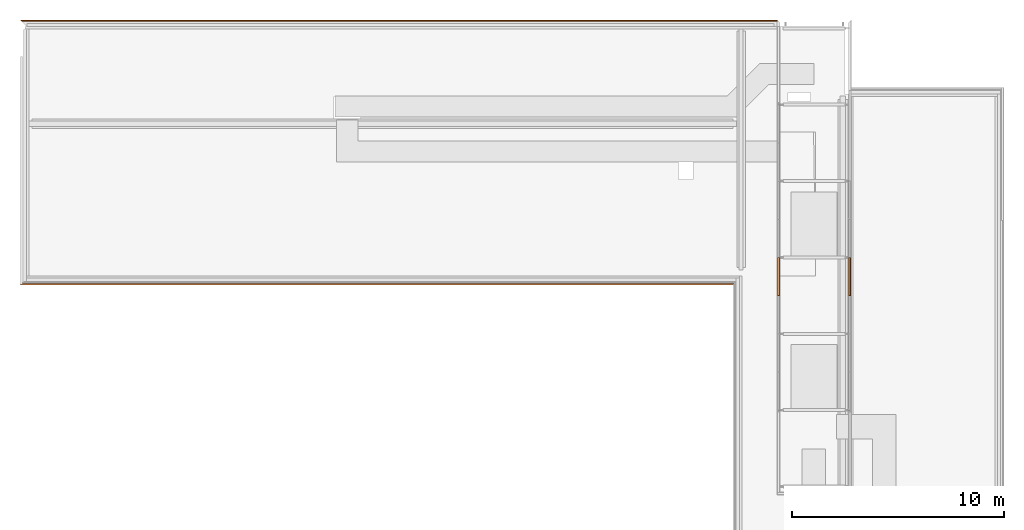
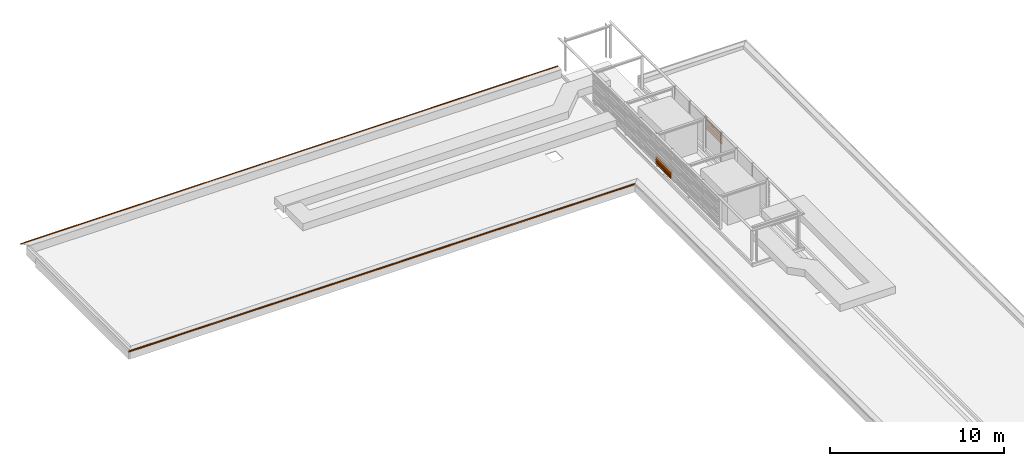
# One storey, part 29 of 32: 13 proxies.
"""IFC2X3 building model written with IfcOpenShell, lengths in millimetres."""

from ifc_helpers import new_model, entity, si_unit, converted_unit, derived_unit, direction, frame, origin, place, context, subcontext, project, spatial, faceted_brep, source, transform, mapped, material, type_object, type_shapes, element, save


model = new_model("IFC2X3")

# Units and contexts
model_context = context("Model", 3, precision=0.01, world=origin(), true_north=direction((6.123031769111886e-17, 1.0)))
body_context = subcontext(model_context, "Body", "Model", "MODEL_VIEW")
ifc_project = project(units=[si_unit("LENGTHUNIT", "METRE", prefix="MILLI"), si_unit("AREAUNIT", "SQUARE_METRE"), si_unit("VOLUMEUNIT", "CUBIC_METRE"), converted_unit("PLANEANGLEUNIT", "DEGREE", entity("IfcRatioMeasure", 0.017453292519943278), si_unit("PLANEANGLEUNIT", "RADIAN"), dimensions=[0, 0, 0, 0, 0, 0, 0]), si_unit("MASSUNIT", "GRAM", prefix="KILO"), derived_unit("MASSDENSITYUNIT", [(si_unit("MASSUNIT", "GRAM", prefix="KILO"), 1), (si_unit("LENGTHUNIT", "METRE"), -3)]), derived_unit("IONCONCENTRATIONUNIT", [(si_unit("MASSUNIT", "GRAM", prefix="KILO"), 1), (si_unit("LENGTHUNIT", "METRE"), -3)]), derived_unit("MOMENTOFINERTIAUNIT", [(si_unit("LENGTHUNIT", "METRE"), 4)]), si_unit("TIMEUNIT", "SECOND"), si_unit("FREQUENCYUNIT", "HERTZ"), si_unit("THERMODYNAMICTEMPERATUREUNIT", "DEGREE_CELSIUS"), derived_unit("THERMALTRANSMITTANCEUNIT", [(si_unit("MASSUNIT", "GRAM", prefix="KILO"), 1), (si_unit("THERMODYNAMICTEMPERATUREUNIT", "KELVIN"), -1), (si_unit("TIMEUNIT", "SECOND"), -3)]), derived_unit("THERMALCONDUCTANCEUNIT", [(si_unit("MASSUNIT", "GRAM", prefix="KILO"), 1), (si_unit("THERMODYNAMICTEMPERATUREUNIT", "KELVIN"), -1), (si_unit("TIMEUNIT", "SECOND"), -3), (si_unit("LENGTHUNIT", "METRE"), 1)]), derived_unit("VOLUMETRICFLOWRATEUNIT", [(si_unit("LENGTHUNIT", "METRE"), 3), (si_unit("TIMEUNIT", "SECOND"), -1)]), derived_unit("MASSFLOWRATEUNIT", [(si_unit("MASSUNIT", "GRAM", prefix="KILO"), 1), (si_unit("TIMEUNIT", "SECOND"), -1)]), derived_unit("ROTATIONALFREQUENCYUNIT", [(si_unit("TIMEUNIT", "SECOND"), -1)]), si_unit("ELECTRICCURRENTUNIT", "AMPERE"), si_unit("ELECTRICVOLTAGEUNIT", "VOLT"), si_unit("POWERUNIT", "WATT"), si_unit("FORCEUNIT", "NEWTON", prefix="KILO"), si_unit("ILLUMINANCEUNIT", "LUX"), si_unit("LUMINOUSFLUXUNIT", "LUMEN"), si_unit("LUMINOUSINTENSITYUNIT", "CANDELA"), derived_unit("USERDEFINED", [(si_unit("MASSUNIT", "GRAM", prefix="KILO"), -1), (si_unit("LENGTHUNIT", "METRE"), -2), (si_unit("TIMEUNIT", "SECOND"), 3), (si_unit("LUMINOUSFLUXUNIT", "LUMEN"), 1)]), derived_unit("USERDEFINED", [(si_unit("MASSUNIT", "GRAM", prefix="KILO"), 1), (si_unit("TIMEUNIT", "SECOND"), -3), (si_unit("LENGTHUNIT", "METRE"), 3), (si_unit("ELECTRICCURRENTUNIT", "AMPERE"), -2)]), derived_unit("SOUNDPOWERUNIT", [(si_unit("MASSUNIT", "GRAM", prefix="KILO"), 1), (si_unit("TIMEUNIT", "SECOND"), -3), (si_unit("LENGTHUNIT", "METRE"), 2)]), derived_unit("SOUNDPRESSUREUNIT", [(si_unit("MASSUNIT", "GRAM", prefix="KILO"), 1), (si_unit("LENGTHUNIT", "METRE"), -1), (si_unit("TIMEUNIT", "SECOND"), -2)]), derived_unit("LINEARVELOCITYUNIT", [(si_unit("LENGTHUNIT", "METRE"), 1), (si_unit("TIMEUNIT", "SECOND"), -1)]), si_unit("PRESSUREUNIT", "PASCAL"), derived_unit("USERDEFINED", [(si_unit("MASSUNIT", "GRAM", prefix="KILO"), 1), (si_unit("LENGTHUNIT", "METRE"), -2), (si_unit("TIMEUNIT", "SECOND"), -2)]), derived_unit("LINEARFORCEUNIT", [(si_unit("MASSUNIT", "GRAM", prefix="KILO"), 1), (si_unit("TIMEUNIT", "SECOND"), -2)]), derived_unit("PLANARFORCEUNIT", [(si_unit("MASSUNIT", "GRAM", prefix="KILO"), 1), (si_unit("LENGTHUNIT", "METRE"), -1), (si_unit("TIMEUNIT", "SECOND"), -2)]), derived_unit("SPECIFICHEATCAPACITYUNIT", [(si_unit("THERMODYNAMICTEMPERATUREUNIT", "KELVIN"), -1), (si_unit("LENGTHUNIT", "METRE"), 2), (si_unit("TIMEUNIT", "SECOND"), -2)]), derived_unit("HEATINGVALUEUNIT", [(si_unit("LENGTHUNIT", "METRE"), 2), (si_unit("TIMEUNIT", "SECOND"), -2)]), derived_unit("VAPORPERMEABILITYUNIT", [(si_unit("LENGTHUNIT", "METRE"), -1), (si_unit("TIMEUNIT", "SECOND"), 1)]), derived_unit("DYNAMICVISCOSITYUNIT", [(si_unit("MASSUNIT", "GRAM", prefix="KILO"), 1), (si_unit("TIMEUNIT", "SECOND"), -1), (si_unit("LENGTHUNIT", "METRE"), -1)]), derived_unit("THERMALEXPANSIONCOEFFICIENTUNIT", [(si_unit("THERMODYNAMICTEMPERATUREUNIT", "KELVIN"), -1)]), derived_unit("MODULUSOFELASTICITYUNIT", [(si_unit("MASSUNIT", "GRAM", prefix="KILO"), 1), (si_unit("LENGTHUNIT", "METRE"), -1), (si_unit("TIMEUNIT", "SECOND"), -2)]), derived_unit("ISOTHERMALMOISTURECAPACITYUNIT", [(si_unit("LENGTHUNIT", "METRE"), 3), (si_unit("MASSUNIT", "GRAM", prefix="KILO"), -1)]), derived_unit("MOISTUREDIFFUSIVITYUNIT", [(si_unit("TIMEUNIT", "SECOND"), -1), (si_unit("LENGTHUNIT", "METRE"), 2)])], contexts=[model_context])

# Site, building, storey
site_placement = place(None, frame((0.0, 300.0, 0.0)))
site = spatial("IfcSite", under=ifc_project, at=site_placement, Name="<Kadastrale nummers>", CompositionType="ELEMENT")
building_placement = place(site_placement, origin())
building = spatial("IfcBuilding", under=site, at=building_placement, CompositionType="ELEMENT")
storey_placement = place(building_placement, frame((0.0, 0.0, 7150.000035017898)))
storey = spatial("IfcBuildingStorey", under=building, at=storey_placement, Name="02 tweede verdieping", CompositionType="ELEMENT", Elevation=7150.000035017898)

# Proxies
ifc_material = material(Name="STAAL_RAL 7006")
building_element_proxy_type_1 = type_object("IfcBuildingElementProxyType", Name="NLRS_42_GM_WPB_dakrand_gen_ISR:dakrand_gen", PredefinedType="NOTDEFINED", material=ifc_material)
shared_shape_1 = source(origin(), body_context, "Body", "Brep", [
    faceted_brep([(17852.499999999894, 1.0, 14.0), (17853.281831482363, 0.2181685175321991, 13.623489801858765), (17853.499999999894, 0.0, 13.0), (17853.499999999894, 0.0, -39.696774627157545), (17853.02497658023, 0.4750234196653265, -40.54789129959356), (17852.241180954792, 1.2588190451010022, -40.662700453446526), (17842.24791407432, 11.252085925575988, -37.98501266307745), (17841.54080729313, 11.959192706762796, -36.76026779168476), (17842.76555216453, 10.734447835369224, -36.05316101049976), (17850.241180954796, 3.258819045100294, -38.05624970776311), (17851.186241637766, 2.313758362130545, -37.81769752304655), (17851.499999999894, 2.0, -37.0903238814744), (17851.499999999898, 2.0, -28.0), (17851.123489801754, 2.3765101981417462, -27.21816851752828), (17850.499999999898, 3.0, -27.0), (17847.499999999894, 6.0, -27.0), (17846.718168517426, 6.7818314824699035, -26.623489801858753), (17846.499999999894, 7.0, -26.0), (17846.499999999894, 7.0, -23.0), (17847.604528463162, 5.895471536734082, -22.005478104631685), (17848.499999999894, 5.0, -23.0), (17848.499999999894, 5.0, -24.0), (17848.876510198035, 4.623489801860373, -24.781831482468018), (17849.49999999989, 4.0, -25.0), (17850.499999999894, 3.0, -25.0), (17851.281831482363, 2.21816851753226, -24.623489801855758), (17851.499999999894, 2.0, -24.0), (17851.499999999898, 2.0, -1.0), (17851.123489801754, 2.37651019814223, -0.21816851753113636), (17850.499999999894, 3.0, 0.0), (17849.499999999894, 4.0, 0.0), (17848.718168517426, 4.781831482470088, -0.3765101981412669), (17848.499999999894, 5.0, -1.0), (17848.499999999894, 5.0, -2.0), (17847.395471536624, 6.1045284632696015, -2.9945218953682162), (17846.499999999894, 7.0, -2.0), (17846.499999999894, 7.0, -1.0), (17846.123489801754, 7.376510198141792, -0.21816851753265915), (17845.499999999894, 8.0, 0.0), (17783.499999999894, 70.0, 0.0), (17783.0, 70.49999999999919, 0.4999999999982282), (17783.499999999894, 70.0, 1.0), (17788.0, 65.49999999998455, 2.0), (17850.499999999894, 3.0, 2.0), (17851.281831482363, 2.2181685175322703, 2.3765101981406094), (17851.499999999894, 2.0, 3.0), (17851.499999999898, 2.0, 11.0), (17851.123489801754, 2.3765101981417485, 11.781831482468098), (17850.499999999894, 3.0, 12.0), (17842.499999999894, 11.0, 12.0), (17841.499999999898, 12.0, 13.0), (17842.499999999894, 11.0, 14.0), (-17853.499999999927, 2.0, 3.0), (-17853.499999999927, 2.292893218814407, 2.2928932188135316), (-17853.499999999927, 3.0, 2.0), (-17853.499999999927, 3.0, 12.0), (-17853.499999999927, 2.2928932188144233, 11.707106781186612), (-17853.499999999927, 2.0, 11.0), (-17853.499999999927, 12.0, 13.0), (-17853.499999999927, 11.0, 14.0), (-17853.499999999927, 11.0, 12.0), (-17853.499999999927, 0.0, 13.0), (-17853.499999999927, 0.29289321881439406, 13.707106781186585), (-17853.499999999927, 1.0, 14.0), (-17853.499999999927, 1.258819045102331, -40.662700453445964), (-17853.499999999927, 0.5000000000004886, -40.56280003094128), (-17853.499999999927, 0.0, -39.69677462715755), (-17853.499999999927, 11.959192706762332, -36.76026779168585), (-17853.499999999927, 10.734447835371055, -36.05316101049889), (-17853.499999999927, 11.252085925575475, -37.98501266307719), (-17853.499999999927, 2.2928932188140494, -37.797430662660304), (-17853.499999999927, 2.0, -37.090323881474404), (-17853.499999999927, 3.2588190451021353, -38.0562497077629), (-17853.499999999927, 3.0, -27.0), (-17853.499999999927, 2.292893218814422, -27.292893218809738), (-17853.499999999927, 2.0, -28.0), (-17853.499999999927, 65.49999999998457, 2.0), (-17853.499999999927, 70.0, 1.0), (-17853.499999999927, 70.49999999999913, 0.4999999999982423), (-17853.499999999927, 70.0, 0.0), (-17853.499999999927, 8.0, 0.0), (-17853.499999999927, 3.0, 0.0), (-17853.499999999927, 4.0, 0.0), (-17853.499999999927, 7.292893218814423, -0.2928932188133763), (-17853.499999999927, 7.0, -1.0), (-17853.499999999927, 7.0, -2.0), (-17853.499999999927, 7.0, -26.0), (-17853.499999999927, 7.0, -23.0), (-17853.499999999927, 6.0, -3.0), (-17853.499999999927, 5.0, -2.0), (-17853.499999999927, 5.0, -1.0), (-17853.499999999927, 5.0, -23.0), (-17853.499999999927, 5.0, -24.0), (-17853.499999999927, 4.707106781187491, -0.2928932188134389), (-17853.499999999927, 2.2928932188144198, -0.29289321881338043), (-17853.499999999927, 2.0, -1.0), (-17853.499999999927, 2.0, -24.0), (-17853.499999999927, 2.2928932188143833, -24.707106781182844), (-17853.499999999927, 3.0, -25.0), (-17853.499999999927, 4.0, -25.0), (-17853.499999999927, 4.7071067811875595, -24.707106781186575), (-17853.499999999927, 6.0, -22.0), (-17853.499999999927, 6.707106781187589, -26.707106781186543), (-17853.499999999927, 6.0, -27.0)], [[[0, 1, 2, 3, 4, 5, 6, 7, 8, 9, 10, 11, 12, 13, 14, 15, 16, 17, 18, 19, 20, 21, 22, 23, 24, 25, 26, 27, 28, 29, 30, 31, 32, 33, 34, 35, 36, 37, 38, 39, 40, 41, 42, 43, 44, 45, 46, 47, 48, 49, 50, 51]], [[45, 44, 52]], [[53, 52, 44]], [[43, 54, 53]], [[44, 43, 53]], [[48, 47, 55]], [[56, 55, 47]], [[46, 57, 56]], [[47, 46, 56]], [[58, 59, 51, 50]], [[50, 49, 60, 58]], [[61, 2, 1]], [[61, 1, 62]], [[62, 0, 63]], [[0, 62, 1]], [[64, 5, 65]], [[65, 5, 4]], [[4, 3, 66]], [[4, 66, 65]], [[67, 68, 8, 7]], [[7, 6, 69, 67]], [[11, 70, 71]], [[10, 70, 11]], [[10, 9, 70]], [[72, 70, 9]], [[14, 13, 73]], [[74, 73, 13]], [[12, 75, 74]], [[13, 12, 74]], [[76, 54, 43, 42]], [[77, 76, 42, 41]], [[78, 77, 41, 40]], [[40, 39, 79, 78]], [[80, 79, 39, 38]], [[81, 82, 30, 29]], [[38, 37, 80]], [[83, 80, 37]], [[36, 84, 83]], [[37, 36, 83]], [[85, 84, 36, 35]], [[86, 87, 18, 17]], [[85, 35, 34]], [[85, 34, 88]], [[88, 33, 89]], [[33, 88, 34]], [[90, 89, 33, 32]], [[91, 92, 21, 20]], [[32, 31, 90]], [[93, 90, 31]], [[30, 82, 93]], [[31, 30, 93]], [[29, 28, 81]], [[94, 81, 28]], [[27, 95, 94]], [[28, 27, 94]], [[96, 95, 27, 26]], [[71, 75, 12, 11]], [[52, 57, 46, 45]], [[26, 25, 96]], [[97, 96, 25]], [[24, 98, 97]], [[25, 24, 97]], [[99, 98, 24, 23]], [[23, 22, 99]], [[100, 99, 22]], [[21, 92, 100]], [[22, 21, 100]], [[91, 20, 19]], [[91, 19, 101]], [[101, 18, 87]], [[18, 101, 19]], [[86, 17, 16]], [[86, 16, 102]], [[102, 15, 103]], [[15, 102, 16]], [[73, 103, 15, 14]], [[68, 72, 9, 8]], [[64, 69, 6, 5]], [[61, 66, 3, 2]], [[59, 63, 0, 51]], [[55, 60, 49, 48]], [[61, 62, 63, 59, 58, 60, 55, 56, 57, 52, 53, 54, 76, 77, 78, 79, 80, 83, 84, 85, 88, 89, 90, 93, 82, 81, 94, 95, 96, 97, 98, 99, 100, 92, 91, 101, 87, 86, 102, 103, 73, 74, 75, 71, 70, 72, 68, 67, 69, 64, 65, 66]]]),
])
type_shapes(building_element_proxy_type_1, [shared_shape_1])
proxy_1_placement = place(storey_placement, frame((20461.500000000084, 50192.0, 567.9999649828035), z_axis=(0.0, 0.0, 1.0), x_axis=(-1.0, 0.0, 0.0)))
element("IfcBuildingElementProxy", 1, at=proxy_1_placement, inside=storey, type_object=building_element_proxy_type_1, material=ifc_material, Name="NLRS_42_GM_WPB_dakrand_gen_ISR:dakrand_gen", ObjectType="NLRS_42_GM_WPB_dakrand_gen_ISR:dakrand_gen", context=body_context, shape_type="MappedRepresentation", body=[
    mapped(shared_shape_1, transform((0.0, 0.0, 0.0), scale=1.0)),
])
building_element_proxy_type_2 = type_object("IfcBuildingElementProxyType", Name="NLRS_42_GM_WPB_dakrand_gen_ISR:dakrand_gen", PredefinedType="NOTDEFINED", material=ifc_material)
shared_shape_2 = source(origin(), body_context, "Body", "Brep", [
    faceted_brep([(16801.0, 1.0, 14.0), (16800.218168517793, 0.21816851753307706, 13.623489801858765), (16800.0, 0.0, 13.0), (16800.0, 0.0, -39.696774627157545), (16800.475023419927, 0.4750234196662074, -40.54789129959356), (16801.258819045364, 1.2588190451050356, -40.66270045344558), (16811.252085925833, 11.25208592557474, -37.98501266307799), (16811.95919270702, 11.959192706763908, -36.760267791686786), (16810.73444783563, 10.734447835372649, -36.053161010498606), (16803.25881904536, 3.2588190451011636, -38.05624970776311), (16802.31375836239, 2.3137583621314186, -37.81769752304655), (16802.0, 2.0, -37.0903238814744), (16802.0, 2.0, -28.0), (16802.376510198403, 2.3765101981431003, -27.218168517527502), (16803.0, 3.0, -27.0), (16806.0, 6.0, -27.0), (16806.78183148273, 6.781831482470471, -26.6234898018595), (16807.0, 7.0, -26.0), (16807.0, 7.0, -23.0), (16805.895471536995, 5.895471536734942, -22.005478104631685), (16805.0, 5.0, -23.0), (16805.0, 5.0, -24.0), (16804.623489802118, 4.62348980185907, -24.781831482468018), (16804.0, 4.0, -25.0), (16803.0, 3.0, -25.0), (16802.218168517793, 2.218168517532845, -24.623489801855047), (16802.0, 2.0, -24.0), (16802.0, 2.0, -1.0), (16802.376510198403, 2.376510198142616, -0.21816851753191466), (16803.0, 3.0, 0.0), (16804.0, 4.0, 0.0), (16804.781831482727, 4.781831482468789, -0.3765101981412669), (16805.0, 5.0, -1.0), (16805.0, 5.0, -2.0), (16806.10452846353, 6.104528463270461, -2.9945218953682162), (16807.0, 7.0, -2.0), (16807.0, 7.0, -1.0), (16807.376510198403, 7.376510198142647, -0.21816851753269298), (16808.0, 8.0, 0.0), (16870.0, 70.0, 0.0), (16870.500000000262, 70.49999999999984, 0.4999999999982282), (16870.0, 70.0, 1.0), (16865.50000000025, 65.49999999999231, 2.0), (16803.0, 3.0, 2.0), (16802.218168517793, 2.218168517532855, 2.3765101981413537), (16802.0, 2.0, 3.0), (16802.0, 2.0, 11.0), (16802.376510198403, 2.376510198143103, 11.781831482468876), (16803.0, 3.0, 12.0), (16811.0, 11.0, 12.0), (16812.0, 12.0, 13.0), (16811.0, 11.0, 14.0), (-16797.781831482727, 2.218168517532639, 2.3765101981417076), (-16798.0, 2.0, 3.0), (-16797.0, 3.0, 2.0), (-16797.623489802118, 2.3765101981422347, 11.781831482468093), (-16797.0, 3.0, 12.0), (-16798.0, 2.0, 11.0), (-16789.0, 11.0, 14.0), (-16788.0, 12.0, 13.0), (-16789.0, 11.0, 12.0), (-16800.0, 0.0, 13.0), (-16799.781831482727, 0.21816851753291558, 13.62348980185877), (-16799.0, 1.0, 14.0), (-16799.524976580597, 0.47502341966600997, -40.54789129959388), (-16798.74118095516, 1.258819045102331, -40.662700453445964), (-16800.0, 0.0, -39.69677462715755), (-16789.26555216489, 10.734447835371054, -36.05316101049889), (-16788.0408072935, 11.959192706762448, -36.76026779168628), (-16788.747914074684, 11.252085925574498, -37.985012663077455), (-16797.686241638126, 2.313758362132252, -37.81769752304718), (-16798.0, 2.0, -37.090323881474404), (-16796.741180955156, 3.2588190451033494, -38.056249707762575), (-16797.623489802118, 2.37651019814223, -27.218168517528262), (-16797.0, 3.0, -27.0), (-16798.0, 2.0, -28.0), (-16734.500000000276, 65.49999999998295, 2.0), (-16730.0, 70.0, 1.0), (-16729.500000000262, 70.49999999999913, 0.49999999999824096), (-16730.0, 70.0, 0.0), (-16792.0, 8.0, 0.0), (-16797.0, 3.0, 0.0), (-16796.0, 4.0, 0.0), (-16792.623489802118, 7.376510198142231, -0.21816851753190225), (-16793.0, 7.0, -1.0), (-16793.0, 7.0, -2.0), (-16793.0, 7.0, -26.0), (-16793.0, 7.0, -23.0), (-16793.89547153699, 6.1045284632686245, -2.994521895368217), (-16795.0, 5.0, -2.0), (-16795.0, 5.0, -1.0), (-16795.0, 5.0, -23.0), (-16795.0, 5.0, -24.0), (-16795.218168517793, 4.781831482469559, -0.376510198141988), (-16797.62348980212, 2.376510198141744, -0.2181685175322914), (-16798.0, 2.0, -1.0), (-16798.0, 2.0, -24.0), (-16797.781831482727, 2.218168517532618, -24.62348980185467), (-16797.0, 3.0, -25.0), (-16796.0, 4.0, -25.0), (-16795.3765101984, 4.623489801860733, -24.781831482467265), (-16794.10452846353, 5.895471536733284, -22.00547810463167), (-16793.218168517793, 6.781831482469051, -26.62348980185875), (-16794.0, 6.0, -27.0)], [[[0, 1, 2, 3, 4, 5, 6, 7, 8, 9, 10, 11, 12, 13, 14, 15, 16, 17, 18, 19, 20, 21, 22, 23, 24, 25, 26, 27, 28, 29, 30, 31, 32, 33, 34, 35, 36, 37, 38, 39, 40, 41, 42, 43, 44, 45, 46, 47, 48, 49, 50, 51]], [[45, 44, 52, 53]], [[43, 54, 52, 44]], [[47, 55, 56, 48]], [[47, 46, 57, 55]], [[58, 51, 50, 59]], [[49, 60, 59, 50]], [[61, 2, 1, 62]], [[1, 0, 63, 62]], [[64, 65, 5, 4]], [[3, 66, 64, 4]], [[67, 8, 7, 68]], [[6, 69, 68, 7]], [[11, 10, 70, 71]], [[9, 72, 70, 10]], [[13, 73, 74, 14]], [[13, 12, 75, 73]], [[76, 54, 43, 42]], [[77, 76, 42, 41]], [[77, 41, 40, 78]], [[39, 79, 78, 40]], [[80, 79, 39, 38]], [[81, 82, 30, 29]], [[37, 83, 80, 38]], [[37, 36, 84, 83]], [[85, 84, 36, 35]], [[86, 87, 18, 17]], [[88, 85, 35, 34]], [[33, 89, 88, 34]], [[90, 89, 33, 32]], [[91, 92, 21, 20]], [[31, 93, 90, 32]], [[31, 30, 82, 93]], [[28, 94, 81, 29]], [[28, 27, 95, 94]], [[96, 95, 27, 26]], [[71, 75, 12, 11]], [[53, 57, 46, 45]], [[26, 25, 97, 96]], [[24, 98, 97, 25]], [[99, 98, 24, 23]], [[23, 22, 100, 99]], [[21, 92, 100, 22]], [[91, 20, 19, 101]], [[19, 18, 87, 101]], [[102, 86, 17, 16]], [[15, 103, 102, 16]], [[74, 103, 15, 14]], [[67, 72, 9, 8]], [[65, 69, 6, 5]], [[61, 66, 3, 2]], [[58, 63, 0, 51]], [[56, 60, 49, 48]], [[61, 62, 63, 58, 59, 60, 56, 55, 57, 53, 52, 54, 76, 77, 78, 79, 80, 83, 84, 85, 88, 89, 90, 93, 82, 81, 94, 95, 96, 97, 98, 99, 100, 92, 91, 101, 87, 86, 102, 103, 74, 73, 75, 71, 70, 72, 67, 68, 69, 65, 64, 66]]]),
])
type_shapes(building_element_proxy_type_2, [shared_shape_2])
proxy_2_placement = place(storey_placement, frame((19408.0, 37708.0, 567.9999649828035)))
element("IfcBuildingElementProxy", 2, at=proxy_2_placement, inside=storey, type_object=building_element_proxy_type_2, material=ifc_material, Name="NLRS_42_GM_WPB_dakrand_gen_ISR:dakrand_gen", ObjectType="NLRS_42_GM_WPB_dakrand_gen_ISR:dakrand_gen", context=body_context, shape_type="MappedRepresentation", body=[
    mapped(shared_shape_2, transform((0.0, 0.0, 0.0), scale=1.0)),
])
building_element_proxy_type_3 = type_object("IfcBuildingElementProxyType", Name="6286746", PredefinedType="NOTDEFINED")
proxy_3_placement = place(storey_placement, frame((41678.0, 37197.49999984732, 2420.0)))
element("IfcBuildingElementProxy", 3, at=proxy_3_placement, inside=storey, type_object=building_element_proxy_type_3, Name="6286746", context=body_context, shape_type="Brep", body=[
    faceted_brep([(90.0, 1797.5000001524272, 40.0), (90.0, 1797.5000001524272, 0.0), (88.0, 1797.5000001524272, 1.3490170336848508), (88.0, 1797.5000001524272, 38.725859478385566), (0.0, 1797.5000001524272, 79.7609333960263), (0.0, 1797.5000001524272, 120.0), (2.0, 1797.5000001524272, 120.0), (2.0, 1797.5000001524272, 81.03507391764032), (90.0, 0.0, 40.0), (2.0, 0.0, 81.0350739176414), (2.0, 0.0, 120.0), (0.0, 0.0, 120.0), (0.0, 0.0, 79.76093339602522), (88.0, 0.0, 38.72585947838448), (88.0, 0.0, 1.3490170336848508), (90.0, 0.0, 0.0)], [[[0, 1, 2, 3, 4, 5, 6, 7]], [[8, 9, 10, 11, 12, 13, 14, 15]], [[0, 7, 9, 8]], [[7, 6, 10, 9]], [[6, 5, 11, 10]], [[5, 4, 12, 11]], [[4, 3, 13, 12]], [[3, 2, 14, 13]], [[2, 1, 15, 14]], [[1, 0, 8, 15]]]),
])
building_element_proxy_type_4 = type_object("IfcBuildingElementProxyType", Name="6286747", PredefinedType="NOTDEFINED")
proxy_4_placement = place(storey_placement, frame((41678.0, 37197.49999984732, 2300.0)))
element("IfcBuildingElementProxy", 4, at=proxy_4_placement, inside=storey, type_object=building_element_proxy_type_4, Name="6286747", context=body_context, shape_type="Brep", body=[
    faceted_brep([(90.0, 1797.5000001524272, 40.0), (90.0, 1797.5000001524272, 0.0), (88.0, 1797.5000001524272, 1.3490170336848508), (88.0, 1797.5000001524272, 38.725859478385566), (0.0, 1797.5000001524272, 79.7609333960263), (0.0, 1797.5000001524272, 120.0), (2.0, 1797.5000001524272, 120.0), (2.0, 1797.5000001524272, 81.03507391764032), (90.0, 0.0, 40.0), (2.0, 0.0, 81.03507391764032), (2.0, 0.0, 120.0), (0.0, 0.0, 120.0), (0.0, 0.0, 79.76093339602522), (88.0, 0.0, 38.72585947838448), (88.0, 0.0, 1.3490170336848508), (90.0, 0.0, 0.0)], [[[0, 1, 2, 3, 4, 5, 6, 7]], [[8, 9, 10, 11, 12, 13, 14, 15]], [[0, 7, 9, 8]], [[7, 6, 10, 9]], [[6, 5, 11, 10]], [[5, 4, 12, 11]], [[4, 3, 13, 12]], [[3, 2, 14, 13]], [[2, 1, 15, 14]], [[1, 0, 8, 15]]]),
])
building_element_proxy_type_5 = type_object("IfcBuildingElementProxyType", Name="6286748", PredefinedType="NOTDEFINED")
proxy_5_placement = place(storey_placement, frame((41678.0, 37197.49999984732, 2180.0)))
element("IfcBuildingElementProxy", 5, at=proxy_5_placement, inside=storey, type_object=building_element_proxy_type_5, Name="6286748", context=body_context, shape_type="Brep", body=[
    faceted_brep([(90.0, 1797.5000001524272, 40.0), (90.0, 1797.5000001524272, 0.0), (88.0, 1797.5000001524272, 1.3490170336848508), (88.0, 1797.5000001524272, 38.725859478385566), (0.0, 1797.5000001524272, 79.7609333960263), (0.0, 1797.5000001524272, 120.0), (2.0, 1797.5000001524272, 120.0), (2.0, 1797.5000001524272, 81.03507391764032), (90.0, 0.0, 40.0), (2.0, 0.0, 81.0350739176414), (2.0, 0.0, 120.0), (0.0, 0.0, 120.0), (0.0, 0.0, 79.76093339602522), (88.0, 0.0, 38.72585947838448), (88.0, 0.0, 1.3490170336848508), (90.0, 0.0, 0.0)], [[[0, 1, 2, 3, 4, 5, 6, 7]], [[8, 9, 10, 11, 12, 13, 14, 15]], [[0, 7, 9, 8]], [[7, 6, 10, 9]], [[6, 5, 11, 10]], [[5, 4, 12, 11]], [[4, 3, 13, 12]], [[3, 2, 14, 13]], [[2, 1, 15, 14]], [[1, 0, 8, 15]]]),
])
building_element_proxy_type_6 = type_object("IfcBuildingElementProxyType", Name="6286749", PredefinedType="NOTDEFINED")
proxy_6_placement = place(storey_placement, frame((41678.0, 37197.49999984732, 2060.0)))
element("IfcBuildingElementProxy", 6, at=proxy_6_placement, inside=storey, type_object=building_element_proxy_type_6, Name="6286749", context=body_context, shape_type="Brep", body=[
    faceted_brep([(90.0, 1797.5000001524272, 40.0), (90.0, 1797.5000001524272, 0.0), (88.0, 1797.5000001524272, 1.3490170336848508), (88.0, 1797.5000001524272, 38.725859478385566), (0.0, 1797.5000001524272, 79.7609333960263), (0.0, 1797.5000001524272, 120.0), (2.0, 1797.5000001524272, 120.0), (2.0, 1797.5000001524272, 81.03507391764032), (90.0, 0.0, 40.0), (2.0, 0.0, 81.0350739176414), (2.0, 0.0, 120.0), (0.0, 0.0, 120.0), (0.0, 0.0, 79.76093339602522), (88.0, 0.0, 38.72585947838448), (88.0, 0.0, 1.3490170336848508), (90.0, 0.0, 0.0)], [[[0, 1, 2, 3, 4, 5, 6, 7]], [[8, 9, 10, 11, 12, 13, 14, 15]], [[0, 7, 9, 8]], [[7, 6, 10, 9]], [[6, 5, 11, 10]], [[5, 4, 12, 11]], [[4, 3, 13, 12]], [[3, 2, 14, 13]], [[2, 1, 15, 14]], [[1, 0, 8, 15]]]),
])
building_element_proxy_type_7 = type_object("IfcBuildingElementProxyType", Name="6286750", PredefinedType="NOTDEFINED")
proxy_7_placement = place(storey_placement, frame((41678.0, 37197.49999984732, 1940.0)))
element("IfcBuildingElementProxy", 7, at=proxy_7_placement, inside=storey, type_object=building_element_proxy_type_7, Name="6286750", context=body_context, shape_type="Brep", body=[
    faceted_brep([(90.0, 1797.5000001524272, 40.0), (90.0, 1797.5000001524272, 0.0), (88.0, 1797.5000001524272, 1.3490170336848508), (88.0, 1797.5000001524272, 38.725859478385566), (0.0, 1797.5000001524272, 79.7609333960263), (0.0, 1797.5000001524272, 120.0), (2.0, 1797.5000001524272, 120.0), (2.0, 1797.5000001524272, 81.03507391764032), (90.0, 0.0, 40.0), (2.0, 0.0, 81.0350739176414), (2.0, 0.0, 120.0), (0.0, 0.0, 120.0), (0.0, 0.0, 79.76093339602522), (88.0, 0.0, 38.72585947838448), (88.0, 0.0, 1.3490170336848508), (90.0, 0.0, 0.0)], [[[0, 1, 2, 3, 4, 5, 6, 7]], [[8, 9, 10, 11, 12, 13, 14, 15]], [[0, 7, 9, 8]], [[7, 6, 10, 9]], [[6, 5, 11, 10]], [[5, 4, 12, 11]], [[4, 3, 13, 12]], [[3, 2, 14, 13]], [[2, 1, 15, 14]], [[1, 0, 8, 15]]]),
])
building_element_proxy_type_8 = type_object("IfcBuildingElementProxyType", Name="6286751", PredefinedType="NOTDEFINED")
proxy_8_placement = place(storey_placement, frame((41678.0, 37197.49999984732, 1820.0)))
element("IfcBuildingElementProxy", 8, at=proxy_8_placement, inside=storey, type_object=building_element_proxy_type_8, Name="6286751", context=body_context, shape_type="Brep", body=[
    faceted_brep([(90.0, 1797.5000001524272, 40.0), (90.0, 1797.5000001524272, 0.0), (88.0, 1797.5000001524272, 1.3490170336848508), (88.0, 1797.5000001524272, 38.725859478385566), (0.0, 1797.5000001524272, 79.7609333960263), (0.0, 1797.5000001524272, 120.0), (2.0, 1797.5000001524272, 120.0), (2.0, 1797.5000001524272, 81.03507391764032), (90.0, 0.0, 40.0), (2.0, 0.0, 81.0350739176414), (2.0, 0.0, 120.0), (0.0, 0.0, 120.0), (0.0, 0.0, 79.76093339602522), (88.0, 0.0, 38.72585947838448), (88.0, 0.0, 1.3490170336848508), (90.0, 0.0, 0.0)], [[[0, 1, 2, 3, 4, 5, 6, 7]], [[8, 9, 10, 11, 12, 13, 14, 15]], [[0, 7, 9, 8]], [[7, 6, 10, 9]], [[6, 5, 11, 10]], [[5, 4, 12, 11]], [[4, 3, 13, 12]], [[3, 2, 14, 13]], [[2, 1, 15, 14]], [[1, 0, 8, 15]]]),
])
building_element_proxy_type_9 = type_object("IfcBuildingElementProxyType", Name="6286752", PredefinedType="NOTDEFINED")
proxy_9_placement = place(storey_placement, frame((41678.0, 37197.49999984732, 1700.0)))
element("IfcBuildingElementProxy", 9, at=proxy_9_placement, inside=storey, type_object=building_element_proxy_type_9, Name="6286752", context=body_context, shape_type="Brep", body=[
    faceted_brep([(90.0, 1797.5000001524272, 40.0), (90.0, 1797.5000001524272, 0.0), (88.0, 1797.5000001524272, 1.3490170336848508), (88.0, 1797.5000001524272, 38.725859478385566), (0.0, 1797.5000001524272, 79.7609333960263), (0.0, 1797.5000001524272, 120.0), (2.0, 1797.5000001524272, 120.0), (2.0, 1797.5000001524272, 81.03507391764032), (90.0, 0.0, 40.0), (2.0, 0.0, 81.03507391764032), (2.0, 0.0, 120.0), (0.0, 0.0, 120.0), (0.0, 0.0, 79.76093339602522), (88.0, 0.0, 38.72585947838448), (88.0, 0.0, 1.3490170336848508), (90.0, 0.0, 0.0)], [[[0, 1, 2, 3, 4, 5, 6, 7]], [[8, 9, 10, 11, 12, 13, 14, 15]], [[0, 7, 9, 8]], [[7, 6, 10, 9]], [[6, 5, 11, 10]], [[5, 4, 12, 11]], [[4, 3, 13, 12]], [[3, 2, 14, 13]], [[2, 1, 15, 14]], [[1, 0, 8, 15]]]),
])
building_element_proxy_type_10 = type_object("IfcBuildingElementProxyType", Name="6287450", PredefinedType="NOTDEFINED")
proxy_10_placement = place(storey_placement, frame((38322.0, 37197.49999984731, 860.0)))
element("IfcBuildingElementProxy", 10, at=proxy_10_placement, inside=storey, type_object=building_element_proxy_type_10, Name="6287450", context=body_context, shape_type="Brep", body=[
    faceted_brep([(0.0, 1797.5000001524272, 40.0), (88.0, 1797.5000001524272, 81.03507391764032), (88.0, 1797.5000001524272, 120.0), (90.0, 1797.5000001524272, 120.0), (90.0, 1797.5000001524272, 79.76093339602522), (2.0, 1797.5000001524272, 38.72585947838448), (2.0, 1797.5000001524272, 1.3490170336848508), (0.0, 1797.5000001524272, 0.0), (0.0, 0.0, 40.0), (0.0, 0.0, 0.0), (2.0, 0.0, 1.3490170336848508), (2.0, 0.0, 38.725859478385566), (90.0, 0.0, 79.7609333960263), (90.0, 0.0, 120.0), (88.0, 0.0, 120.0), (88.0, 0.0, 81.03507391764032)], [[[0, 1, 2, 3, 4, 5, 6, 7]], [[8, 9, 10, 11, 12, 13, 14, 15]], [[1, 0, 8, 15]], [[2, 1, 15, 14]], [[3, 2, 14, 13]], [[4, 3, 13, 12]], [[5, 4, 12, 11]], [[6, 5, 11, 10]], [[7, 6, 10, 9]], [[0, 7, 9, 8]]]),
])
building_element_proxy_type_11 = type_object("IfcBuildingElementProxyType", Name="6287451", PredefinedType="NOTDEFINED")
proxy_11_placement = place(storey_placement, frame((38322.0, 37197.49999984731, 740.0)))
element("IfcBuildingElementProxy", 11, at=proxy_11_placement, inside=storey, type_object=building_element_proxy_type_11, Name="6287451", context=body_context, shape_type="Brep", body=[
    faceted_brep([(0.0, 1797.5000001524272, 40.0), (88.0, 1797.5000001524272, 81.0350739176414), (88.0, 1797.5000001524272, 120.0), (90.0, 1797.5000001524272, 120.0), (90.0, 1797.5000001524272, 79.76093339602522), (2.0, 1797.5000001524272, 38.72585947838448), (2.0, 1797.5000001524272, 1.3490170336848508), (0.0, 1797.5000001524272, 0.0), (0.0, 0.0, 40.0), (0.0, 0.0, 0.0), (2.0, 0.0, 1.3490170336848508), (2.0, 0.0, 38.725859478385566), (90.0, 0.0, 79.7609333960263), (90.0, 0.0, 120.0), (88.0, 0.0, 120.0), (88.0, 0.0, 81.03507391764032)], [[[0, 1, 2, 3, 4, 5, 6, 7]], [[8, 9, 10, 11, 12, 13, 14, 15]], [[1, 0, 8, 15]], [[2, 1, 15, 14]], [[3, 2, 14, 13]], [[4, 3, 13, 12]], [[5, 4, 12, 11]], [[6, 5, 11, 10]], [[7, 6, 10, 9]], [[0, 7, 9, 8]]]),
])
building_element_proxy_type_12 = type_object("IfcBuildingElementProxyType", Name="6287452", PredefinedType="NOTDEFINED")
proxy_12_placement = place(storey_placement, frame((38322.0, 37197.49999984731, 620.0)))
element("IfcBuildingElementProxy", 12, at=proxy_12_placement, inside=storey, type_object=building_element_proxy_type_12, Name="6287452", context=body_context, shape_type="Brep", body=[
    faceted_brep([(0.0, 1797.5000001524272, 40.0), (88.0, 1797.5000001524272, 81.0350739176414), (88.0, 1797.5000001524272, 120.0), (90.0, 1797.5000001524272, 120.0), (90.0, 1797.5000001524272, 79.76093339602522), (2.0, 1797.5000001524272, 38.72585947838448), (2.0, 1797.5000001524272, 1.3490170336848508), (0.0, 1797.5000001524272, 0.0), (0.0, 0.0, 40.0), (0.0, 0.0, 0.0), (2.0, 0.0, 1.3490170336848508), (2.0, 0.0, 38.725859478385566), (90.0, 0.0, 79.7609333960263), (90.0, 0.0, 120.0), (88.0, 0.0, 120.0), (88.0, 0.0, 81.03507391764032)], [[[0, 1, 2, 3, 4, 5, 6, 7]], [[8, 9, 10, 11, 12, 13, 14, 15]], [[1, 0, 8, 15]], [[2, 1, 15, 14]], [[3, 2, 14, 13]], [[4, 3, 13, 12]], [[5, 4, 12, 11]], [[6, 5, 11, 10]], [[7, 6, 10, 9]], [[0, 7, 9, 8]]]),
])
building_element_proxy_type_13 = type_object("IfcBuildingElementProxyType", Name="6287453", PredefinedType="NOTDEFINED")
proxy_13_placement = place(storey_placement, frame((38322.0, 37197.49999984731, 500.0)))
element("IfcBuildingElementProxy", 13, at=proxy_13_placement, inside=storey, type_object=building_element_proxy_type_13, Name="6287453", context=body_context, shape_type="Brep", body=[
    faceted_brep([(0.0, 1797.5000001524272, 40.0), (88.0, 1797.5000001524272, 81.03507391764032), (88.0, 1797.5000001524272, 120.0), (90.0, 1797.5000001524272, 120.0), (90.0, 1797.5000001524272, 79.76093339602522), (2.0, 1797.5000001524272, 38.72585947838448), (2.0, 1797.5000001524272, 1.3490170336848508), (0.0, 1797.5000001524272, 0.0), (0.0, 0.0, 40.0), (0.0, 0.0, 0.0), (2.0, 0.0, 1.3490170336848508), (2.0, 0.0, 38.725859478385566), (90.0, 0.0, 79.7609333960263), (90.0, 0.0, 120.0), (88.0, 0.0, 120.0), (88.0, 0.0, 81.03507391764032)], [[[0, 1, 2, 3, 4, 5, 6, 7]], [[8, 9, 10, 11, 12, 13, 14, 15]], [[1, 0, 8, 15]], [[2, 1, 15, 14]], [[3, 2, 14, 13]], [[4, 3, 13, 12]], [[5, 4, 12, 11]], [[6, 5, 11, 10]], [[7, 6, 10, 9]], [[0, 7, 9, 8]]]),
])

save(model, "model.ifc")
